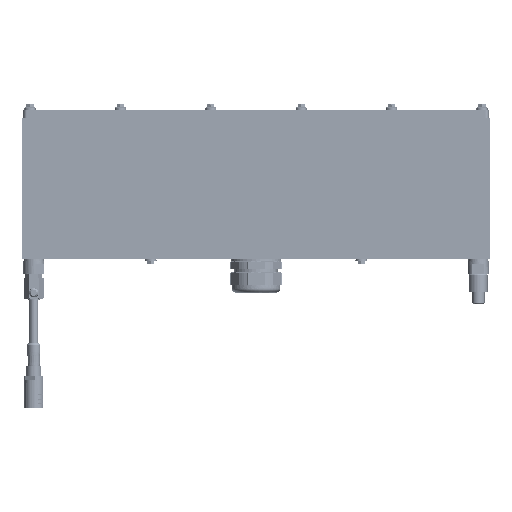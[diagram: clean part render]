
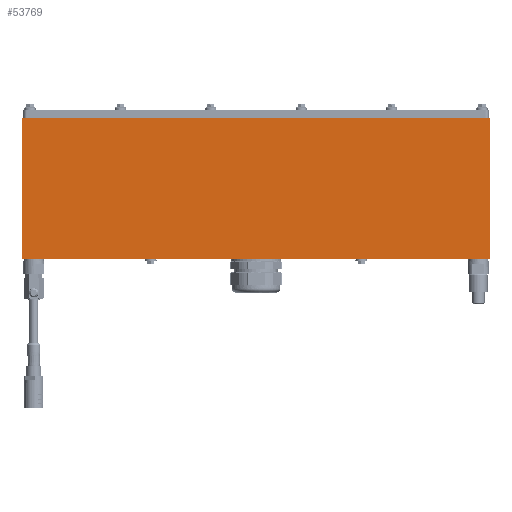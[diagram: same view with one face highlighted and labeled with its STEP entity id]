
A CAD part, left-side view. The second image highlights one B-rep face of the part: STEP entity #53769.
In plain terms, the highlighted planar face has unit normal (-1, 0, 0).
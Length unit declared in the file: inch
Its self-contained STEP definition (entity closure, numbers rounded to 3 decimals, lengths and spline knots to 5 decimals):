
#844 = CARTESIAN_POINT ( 'NONE',  ( -2.5, -10., -3. ) ) ;
#2154 = VERTEX_POINT ( 'NONE', #80912 ) ;
#3766 = EDGE_CURVE ( 'NONE', #2154, #46929, #55640, .T. ) ;
#10291 = DIRECTION ( 'NONE',  ( 0., 0., -1. ) ) ;
#13117 = PLANE ( 'NONE',  #91430 ) ;
#19255 = CARTESIAN_POINT ( 'NONE',  ( -2.5, 10., 3. ) ) ;
#19960 = VECTOR ( 'NONE', #35599, 39.37008 ) ;
#22092 = EDGE_CURVE ( 'NONE', #32651, #101613, #99410, .T. ) ;
#23135 = CARTESIAN_POINT ( 'NONE',  ( -2.5, -10., 3. ) ) ;
#24696 = EDGE_LOOP ( 'NONE', ( #63762, #27537, #65005, #69782 ) ) ;
#27166 = CARTESIAN_POINT ( 'NONE',  ( -2.5, -10., -3. ) ) ;
#27537 = ORIENTED_EDGE ( 'NONE', *, *, #63512, .F. ) ;
#28968 = FACE_OUTER_BOUND ( 'NONE', #24696, .T. ) ;
#29883 = CARTESIAN_POINT ( 'NONE',  ( -2.5, -10., 3. ) ) ;
#30548 = DIRECTION ( 'NONE',  ( 0., 1., 0. ) ) ;
#32651 = VERTEX_POINT ( 'NONE', #47395 ) ;
#35599 = DIRECTION ( 'NONE',  ( 0., -1., 0. ) ) ;
#42469 = LINE ( 'NONE', #19255, #56983 ) ;
#46929 = VERTEX_POINT ( 'NONE', #29883 ) ;
#47395 = CARTESIAN_POINT ( 'NONE',  ( -2.5, 10., -3. ) ) ;
#48073 = EDGE_CURVE ( 'NONE', #2154, #32651, #42469, .T. ) ;
#53769 = ADVANCED_FACE ( 'NONE', ( #28968 ), #13117, .F. ) ;
#55640 = LINE ( 'NONE', #64612, #66193 ) ;
#56983 = VECTOR ( 'NONE', #10291, 39.37008 ) ;
#59612 = LINE ( 'NONE', #67551, #99576 ) ;
#63512 = EDGE_CURVE ( 'NONE', #46929, #101613, #59612, .T. ) ;
#63762 = ORIENTED_EDGE ( 'NONE', *, *, #22092, .T. ) ;
#64612 = CARTESIAN_POINT ( 'NONE',  ( -2.5, -10., 3. ) ) ;
#65005 = ORIENTED_EDGE ( 'NONE', *, *, #3766, .F. ) ;
#66193 = VECTOR ( 'NONE', #96790, 39.37008 ) ;
#67551 = CARTESIAN_POINT ( 'NONE',  ( -2.5, -10., 3. ) ) ;
#69782 = ORIENTED_EDGE ( 'NONE', *, *, #48073, .T. ) ;
#74411 = DIRECTION ( 'NONE',  ( 0., 0., -1. ) ) ;
#78519 = DIRECTION ( 'NONE',  ( 1., 0., 0. ) ) ;
#80912 = CARTESIAN_POINT ( 'NONE',  ( -2.5, 10., 3. ) ) ;
#91430 = AXIS2_PLACEMENT_3D ( 'NONE', #23135, #78519, #30548 ) ;
#96790 = DIRECTION ( 'NONE',  ( 0., -1., 0. ) ) ;
#99410 = LINE ( 'NONE', #27166, #19960 ) ;
#99576 = VECTOR ( 'NONE', #74411, 39.37008 ) ;
#101613 = VERTEX_POINT ( 'NONE', #844 ) ;
